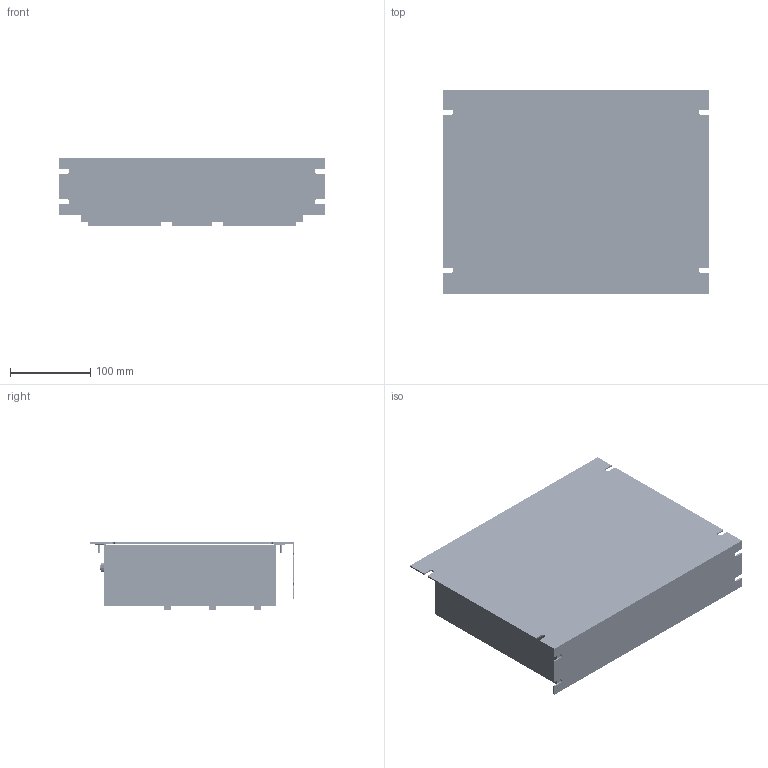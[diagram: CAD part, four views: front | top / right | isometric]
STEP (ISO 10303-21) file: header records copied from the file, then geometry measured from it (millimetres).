
FILE_DESCRIPTION(/* description */ ('','CAx-IF Rec.Pracs.---Representation and Presentation of Product Manufacturing Information (PMI)---4.0---2014-10-13'),/* implementation_level */ '2;1');
FILE_NAME(/* name */ 'XL200, no display - XL2.6-AU-x.step',/* time_stamp */ '2025-02-13T15:47:51-06:00',/* author */ (''),/* organization */ (''),/* preprocessor_version */ 'ST-DEVELOPER v20',/* originating_system */ 'Autodesk Translation Framework v13.20.0.188',/* authorisation */ '');
FILE_SCHEMA (('AP242_MANAGED_MODEL_BASED_3D_ENGINEERING_MIM_LF { 1 0 10303 442 1 1 4 }'));
Products named in the file (31): XL200, no display - XL2.6-AU-x; 7988_Assy; 7988; 5386D-1; 5386D; HFBR-0600 SMA Fiber Optics; PS_2_Molex_87123_series; L1543SRC; 74320-900; DF11G-14DS-2V; 52271149; FI-SE20P-HF; 52207-0485; 53261-0890; 6-32_1x4_MF_hex_spacer; JP0XXXX; DB9_conn; DB15_conn; 3008; 5387D-1; 5387D; SSQ-116-01-S-T; ELFH1625GEE; FHHBH-X-RwHBH-M-X-R; ELFH0825GEE; 6-32_1_FF_hex_spacer; #156806; #156807; L30001; 7987; 6974
Assembly tree (84 placements, depth 4):
  XL200, no display - XL2.6-AU-x
    7988_Assy
      7988
      5386D-1
        5386D
        HFBR-0600 SMA Fiber Optics  x2
        PS_2_Molex_87123_series  x2
        SSQ-116-01-S-T
        L1543SRC
        74320-900
        DF11G-14DS-2V  x2
        52271149
        FI-SE20P-HF
        52207-0485
        53261-0890
        #156806  x6
        #156807  x6
        6-32_1x4_MF_hex_spacer  x6
        JP0XXXX
        DB9_conn
        DB15_conn
        3008
      5387D-1
        5387D
        SSQ-116-01-S-T
        ELFH1625GEE  x6
        FHHBH-X-RwHBH-M-X-R  x3
        #156806  x8
        #156807  x8
        ELFH0825GEE  x2
        6-32_1_FF_hex_spacer  x8
      #156806  x2
      #156807  x2
      L30001
    7987
    6974
Bounding box: 330.2 x 254 x 83.37 mm (x, y, z)
Volume: 598821.2 mm3; surface area: 928591 mm2
Topology: 110 solids, 110 shells, 7603 faces, 19195 edges, 12503 vertices
Faces by surface type: plane 5091, cylinder 2095, cone 398, torus 18, bspline 1
Full cylindrical faces by diameter (mm): 0.45 x12, 0.5 x4, 0.61 x144, 0.762 x10, 0.864 x24, 0.889 x58, 0.9 x12, 1 x4, 1.016 x108, 1.041 x12, 1.05 x9, 1.092 x24, 1.2 x24, 1.27 x1, 1.3 x224, 1.397 x9, 1.524 x2, 1.575 x2, 1.778 x2, 1.93 x4, 2.286 x6, 2.438 x2, 2.474 x128, 2.54 x98, 2.705 x5, 2.8 x4, 2.845 x6, 3 x2, 3.048 x12, 3.175 x24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
Entity records: 156893 total; most frequent: CARTESIAN_POINT 27152, ORIENTED_EDGE 26184, DIRECTION 25492, EDGE_CURVE 13092, LINE 10644, VECTOR 10644, VERTEX_POINT 8647, AXIS2_PLACEMENT_3D 7424
